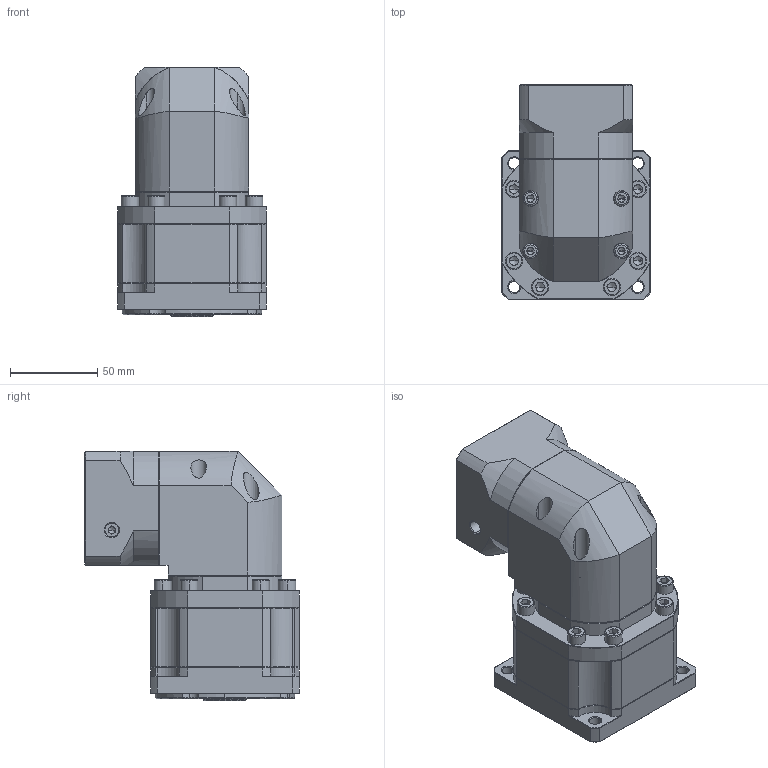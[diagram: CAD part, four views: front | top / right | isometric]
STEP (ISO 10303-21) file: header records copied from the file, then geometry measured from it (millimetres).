
FILE_DESCRIPTION (( 'STEP AP214' ), '1' );
FILE_NAME ('ZBR090-K15-L2-P2-14-60-75-M5.step', '2023-08-19T04:01:33', ( '' ), ( '' ), 'SwSTEP 2.0', 'SolidWorks 2016', '' );
FILE_SCHEMA (( 'AUTOMOTIVE_DESIGN' ));
Length unit declared in the file: millimetre
Products named in the file (1): ZBR090-K15-L2-P2-14-60-75-M5
Bounding box: 85 x 122.7 x 142.5 mm (x, y, z)
Volume: 796936 mm3; surface area: 99342.3 mm2
Topology: 5 solids, 5 shells, 2388 faces, 6361 edges, 4074 vertices
Faces by surface type: plane 1171, cylinder 418, bspline 416, cone 363, torus 20
Entity records: 123600 total; most frequent: CARTESIAN_POINT 40988, ORIENTED_EDGE 12634, DIRECTION 10226, EDGE_CURVE 6317, VERTEX_POINT 4074, LINE 3990, VECTOR 3990, AXIS2_PLACEMENT_3D 3118
